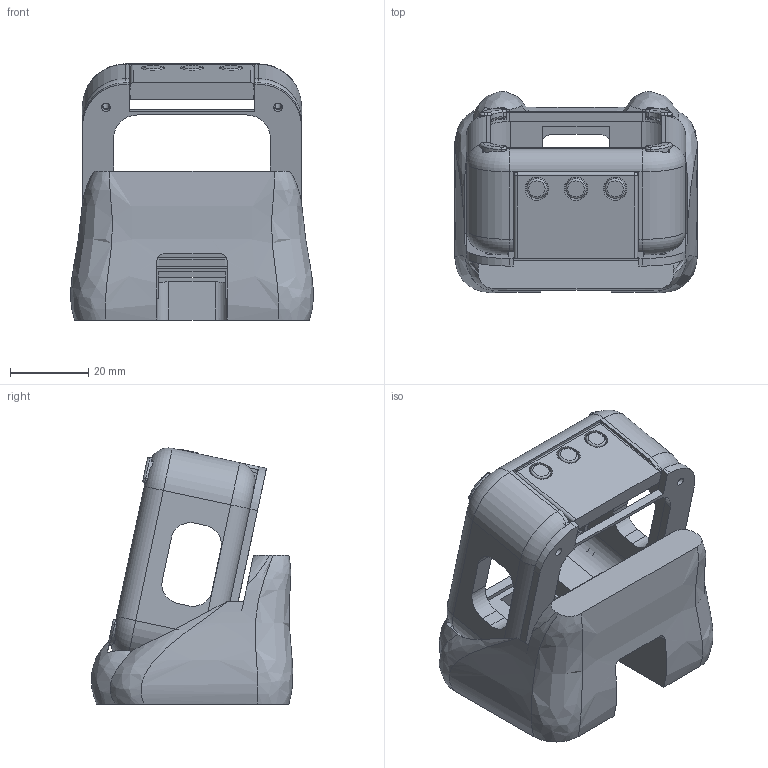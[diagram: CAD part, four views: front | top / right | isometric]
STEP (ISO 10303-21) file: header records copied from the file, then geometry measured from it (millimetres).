
FILE_DESCRIPTION(('Open CASCADE Model'),'2;1');
FILE_NAME('Open CASCADE Shape Model','2026-09-27T04:51:35',('Author'),( 'Open CASCADE'),'Open CASCADE STEP processor 7.8','Open CASCADE 7.8' ,'Unknown');
FILE_SCHEMA(('AUTOMOTIVE_DESIGN { 1 0 10303 214 1 1 1 1 }'));
Length unit declared in the file: millimetre
Products named in the file (12): Mochi-keyed-seated-FIT-STUDY; coral-corner-1; coral-corner-2; cream-sleeve-46p2-keyed; coral-corner-3; coral-corner-4; rear-retainer; top-cache; button-0; button-1; button-2; lavender-cradle
Assembly tree (11 placements, depth 2):
  Mochi-keyed-seated-FIT-STUDY
    coral-corner-1
    coral-corner-2
    cream-sleeve-46p2-keyed
    coral-corner-3
    coral-corner-4
    rear-retainer
    top-cache
    button-0
    button-1
    button-2
    lavender-cradle
Bounding box: 62.01 x 51.48 x 65.45 mm (x, y, z)
Volume: 60053.1 mm3; surface area: 28521.3 mm2
Topology: 11 solids, 11 shells, 452 faces, 1131 edges, 720 vertices
Faces by surface type: plane 189, cylinder 169, torus 67, bspline 25, sphere 2
Full cylindrical faces by diameter (mm): 1.6 x4, 2.2 x4, 4.4 x3, 5.2 x3, 6 x6, 7.6 x3, 8.2 x3
Entity records: 43190 total; most frequent: CARTESIAN_POINT 20975, DIRECTION 3964, ORIENTED_EDGE 2258, PCURVE 2258, DEFINITIONAL_REPRESENTATION 2258, LINE 2086, VECTOR 2086, EDGE_CURVE 1129
